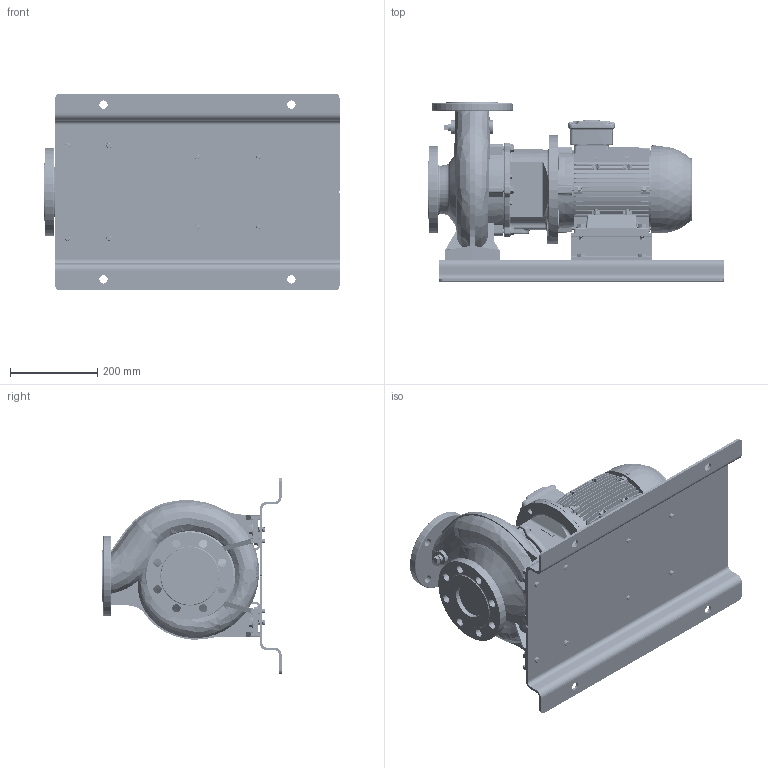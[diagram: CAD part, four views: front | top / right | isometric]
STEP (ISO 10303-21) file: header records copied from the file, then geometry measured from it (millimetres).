
FILE_DESCRIPTION (( 'STEP AP214' ), '1' );
FILE_NAME ('GSD4 65-160_2.2_(100L)_W21_BP.STEP', '2026-05-26T01:29:16', ( '' ), ( '' ), 'SwSTEP 2.0', 'SolidWorks 2024', '' );
FILE_SCHEMA (( 'AUTOMOTIVE_DESIGN' ));
Length unit declared in the file: millimetre
Products named in the file (13): Parametric bolt and washer_SFT-A299B; Parametric bolt_SFT-A299B; Parametric bolt_SFT-A249B; 100L ALIE3_W21T_B35; Parametric Flat Washer_M10; Parametric bolt_SFT-A253B; N4S4 GSDA-441 F1-1832912-00; GSD4 65-160_2.2_(100L)_W21_BP; Parametric Flat Washer_M12; 65-160-100L_ﾃﾞﾌｫﾙﾄ; Parametric bolt and washer_SFT-A253B; Parametric bolt and washer_SFT-A249B; 140 x 60 Side - 271472021
Assembly tree (23 placements, depth 3):
  GSD4 65-160_2.2_(100L)_W21_BP
    65-160-100L_ﾃﾞﾌｫﾙﾄ
    100L ALIE3_W21T_B35
    N4S4 GSDA-441 F1-1832912-00
    140 x 60 Side - 271472021  x2
    Parametric bolt and washer_SFT-A249B  x4
      Parametric bolt_SFT-A249B
      Parametric Flat Washer_M10
    Parametric bolt and washer_SFT-A253B  x4
      Parametric bolt_SFT-A253B
      Parametric Flat Washer_M10
    Parametric bolt and washer_SFT-A299B  x4
      Parametric bolt_SFT-A299B
      Parametric Flat Washer_M12
Bounding box: 675 x 410 x 450 mm (x, y, z)
Volume: 20099375.8 mm3; surface area: 2148921.6 mm2
Topology: 32 solids, 32 shells, 4232 faces, 11039 edges, 7101 vertices
Faces by surface type: plane 2323, cylinder 1156, torus 312, bspline 240, cone 183, sphere 18
Entity records: 187570 total; most frequent: CARTESIAN_POINT 98161, ORIENTED_EDGE 19328, DIRECTION 17321, EDGE_CURVE 9664, VERTEX_POINT 6221, LINE 6091, VECTOR 6091, AXIS2_PLACEMENT_3D 5615
